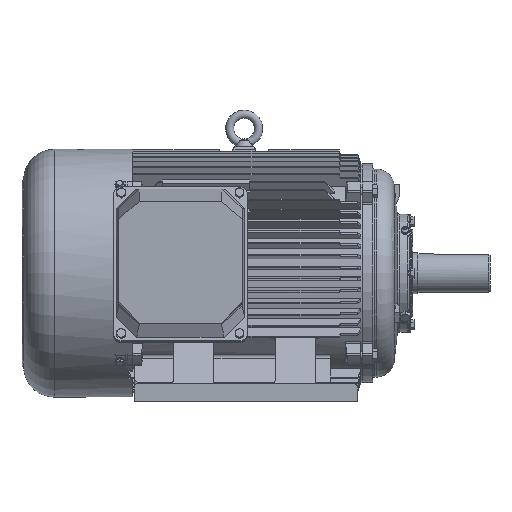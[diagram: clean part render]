
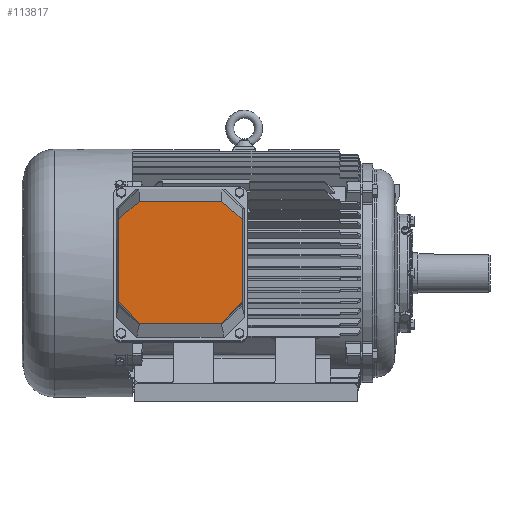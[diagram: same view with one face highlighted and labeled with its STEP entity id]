
A CAD part, left-side view. The second image highlights one B-rep face of the part: STEP entity #113817.
In plain terms, the highlighted planar face has unit normal (-1, 0, 0) as drawn and (0, -0.944, -0.33) by its records, which use the part's own axes.
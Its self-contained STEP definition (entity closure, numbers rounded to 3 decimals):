
#4452=PLANE('',#120608);
#14714=LINE('',#209737,#25047);
#14715=LINE('',#209740,#25048);
#14716=LINE('',#209742,#25049);
#14717=LINE('',#209744,#25050);
#14718=LINE('',#209746,#25051);
#14719=LINE('',#209748,#25052);
#14720=LINE('',#209750,#25053);
#14721=LINE('',#209752,#25054);
#25047=VECTOR('',#143819,1000.);
#25048=VECTOR('',#143820,1000.);
#25049=VECTOR('',#143821,1000.);
#25050=VECTOR('',#143822,1000.);
#25051=VECTOR('',#143823,1000.);
#25052=VECTOR('',#143824,1000.);
#25053=VECTOR('',#143825,1000.);
#25054=VECTOR('',#143826,1000.);
#53939=ORIENTED_EDGE('',*,*,#68643,.F.);
#53940=ORIENTED_EDGE('',*,*,#68644,.T.);
#53941=ORIENTED_EDGE('',*,*,#68645,.F.);
#53942=ORIENTED_EDGE('',*,*,#68646,.T.);
#53943=ORIENTED_EDGE('',*,*,#68647,.T.);
#53944=ORIENTED_EDGE('',*,*,#68648,.F.);
#53945=ORIENTED_EDGE('',*,*,#68649,.F.);
#53946=ORIENTED_EDGE('',*,*,#68650,.T.);
#68643=EDGE_CURVE('',#78209,#78210,#14714,.T.);
#68644=EDGE_CURVE('',#78209,#78211,#14715,.T.);
#68645=EDGE_CURVE('',#78212,#78211,#14716,.T.);
#68646=EDGE_CURVE('',#78212,#78213,#14717,.T.);
#68647=EDGE_CURVE('',#78213,#78214,#14718,.T.);
#68648=EDGE_CURVE('',#78215,#78214,#14719,.T.);
#68649=EDGE_CURVE('',#78216,#78215,#14720,.T.);
#68650=EDGE_CURVE('',#78216,#78210,#14721,.T.);
#78209=VERTEX_POINT('',#209738);
#78210=VERTEX_POINT('',#209739);
#78211=VERTEX_POINT('',#209741);
#78212=VERTEX_POINT('',#209743);
#78213=VERTEX_POINT('',#209745);
#78214=VERTEX_POINT('',#209747);
#78215=VERTEX_POINT('',#209749);
#78216=VERTEX_POINT('',#209751);
#87023=EDGE_LOOP('',(#53939,#53940,#53941,#53942,#53943,#53944,#53945,#53946));
#94109=FACE_BOUND('',#87023,.T.);
#113817=ADVANCED_FACE('',(#94109),#4452,.T.);
#120608=AXIS2_PLACEMENT_3D('',#209736,#143817,#143818);
#143817=DIRECTION('',(0.,-0.944,-0.33));
#143818=DIRECTION('',(0.,0.33,-0.944));
#143819=DIRECTION('',(-1.,0.,0.));
#143820=DIRECTION('',(0.686,-0.24,0.686));
#143821=DIRECTION('',(0.,0.33,-0.944));
#143822=DIRECTION('',(-0.76,-0.215,0.614));
#143823=DIRECTION('',(-1.,0.,0.));
#143824=DIRECTION('',(0.76,-0.215,0.614));
#143825=DIRECTION('',(0.,-0.33,0.944));
#143826=DIRECTION('',(0.686,0.24,-0.686));
#209736=CARTESIAN_POINT('',(130.,-26.055,-129.945));
#209737=CARTESIAN_POINT('',(130.,-26.055,-129.945));
#209738=CARTESIAN_POINT('',(80.,-26.055,-129.945));
#209739=CARTESIAN_POINT('',(-80.,-26.055,-129.945));
#209740=CARTESIAN_POINT('',(103.559,-34.296,-106.386));
#209741=CARTESIAN_POINT('',(120.,-40.047,-89.945));
#209742=CARTESIAN_POINT('',(120.,-26.055,-129.945));
#209743=CARTESIAN_POINT('',(120.,-92.996,61.419));
#209744=CARTESIAN_POINT('',(225.919,-63.078,-24.106));
#209745=CARTESIAN_POINT('',(80.,-104.294,93.718));
#209746=CARTESIAN_POINT('',(130.,-104.294,93.718));
#209747=CARTESIAN_POINT('',(-80.,-104.294,93.718));
#209748=CARTESIAN_POINT('',(-75.784,-105.485,97.122));
#209749=CARTESIAN_POINT('',(-120.,-92.996,61.419));
#209750=CARTESIAN_POINT('',(-120.,-26.055,-129.945));
#209751=CARTESIAN_POINT('',(-120.,-40.047,-89.945));
#209752=CARTESIAN_POINT('',(18.946,8.557,-228.891));
